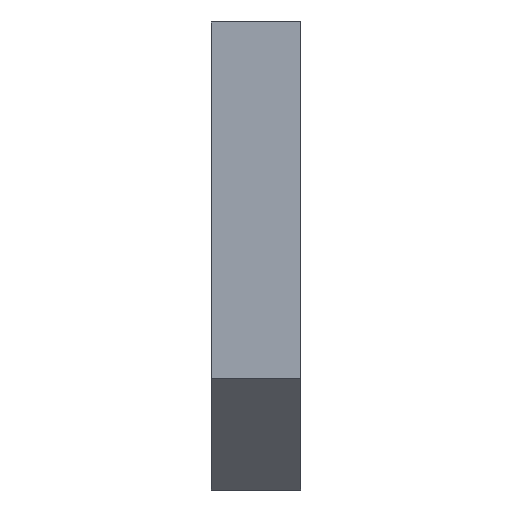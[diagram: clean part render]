
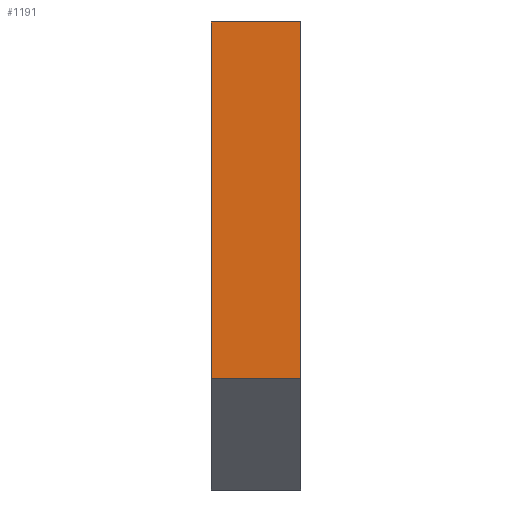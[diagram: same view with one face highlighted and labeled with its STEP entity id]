
A CAD part, left-side view. The second image highlights one B-rep face of the part: STEP entity #1191.
In plain terms, the highlighted planar face has unit normal (-1, 0, 0).
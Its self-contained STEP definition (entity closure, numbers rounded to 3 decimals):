
#13 = ORIENTED_EDGE ( 'NONE', *, *, #691, .T. ) ;
#18 = VECTOR ( 'NONE', #431, 1000. ) ;
#19 = EDGE_CURVE ( 'NONE', #1030, #667, #503, .T. ) ;
#39 = CARTESIAN_POINT ( 'NONE',  ( 0., -8., 42. ) ) ;
#51 = CARTESIAN_POINT ( 'NONE',  ( 0., 0., 42. ) ) ;
#102 = VERTEX_POINT ( 'NONE', #578 ) ;
#151 = LINE ( 'NONE', #1088, #631 ) ;
#178 = EDGE_LOOP ( 'NONE', ( #745, #1132, #13, #932 ) ) ;
#347 = AXIS2_PLACEMENT_3D ( 'NONE', #39, #598, #979 ) ;
#371 = CARTESIAN_POINT ( 'NONE',  ( 0., -8., 42. ) ) ;
#429 = VECTOR ( 'NONE', #483, 1000. ) ;
#431 = DIRECTION ( 'NONE',  ( 0., 0., 1. ) ) ;
#445 = CARTESIAN_POINT ( 'NONE',  ( 0., 0., 42. ) ) ;
#463 = CARTESIAN_POINT ( 'NONE',  ( 0., 0., 10. ) ) ;
#483 = DIRECTION ( 'NONE',  ( 0., -1., 0. ) ) ;
#503 = LINE ( 'NONE', #51, #18 ) ;
#568 = PLANE ( 'NONE',  #347 ) ;
#578 = CARTESIAN_POINT ( 'NONE',  ( 0., -8., 10. ) ) ;
#598 = DIRECTION ( 'NONE',  ( -1., 0., 0. ) ) ;
#631 = VECTOR ( 'NONE', #634, 1000. ) ;
#634 = DIRECTION ( 'NONE',  ( 0., 0., 1. ) ) ;
#649 = LINE ( 'NONE', #719, #429 ) ;
#667 = VERTEX_POINT ( 'NONE', #445 ) ;
#683 = EDGE_CURVE ( 'NONE', #1013, #667, #950, .T. ) ;
#691 = EDGE_CURVE ( 'NONE', #102, #1013, #151, .T. ) ;
#699 = EDGE_CURVE ( 'NONE', #1030, #102, #649, .T. ) ;
#717 = VECTOR ( 'NONE', #877, 1000. ) ;
#719 = CARTESIAN_POINT ( 'NONE',  ( 0., -8., 10. ) ) ;
#745 = ORIENTED_EDGE ( 'NONE', *, *, #19, .F. ) ;
#877 = DIRECTION ( 'NONE',  ( 0., 1., 0. ) ) ;
#914 = FACE_OUTER_BOUND ( 'NONE', #178, .T. ) ;
#932 = ORIENTED_EDGE ( 'NONE', *, *, #683, .T. ) ;
#950 = LINE ( 'NONE', #1072, #717 ) ;
#979 = DIRECTION ( 'NONE',  ( 0., 0., 1. ) ) ;
#1013 = VERTEX_POINT ( 'NONE', #371 ) ;
#1030 = VERTEX_POINT ( 'NONE', #463 ) ;
#1072 = CARTESIAN_POINT ( 'NONE',  ( 0., -8., 42. ) ) ;
#1088 = CARTESIAN_POINT ( 'NONE',  ( 0., -8., 42. ) ) ;
#1132 = ORIENTED_EDGE ( 'NONE', *, *, #699, .T. ) ;
#1191 = ADVANCED_FACE ( 'NONE', ( #914 ), #568, .T. ) ;
